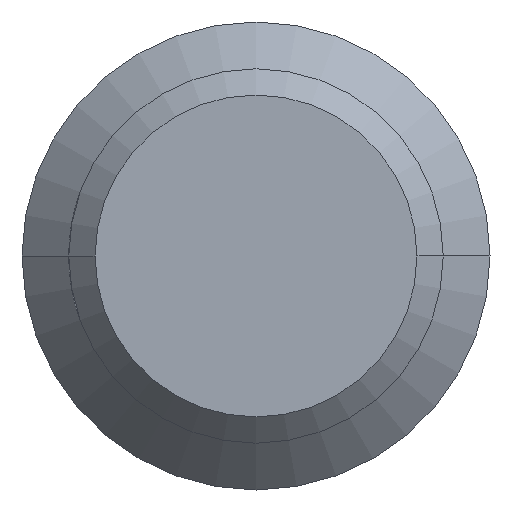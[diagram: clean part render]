
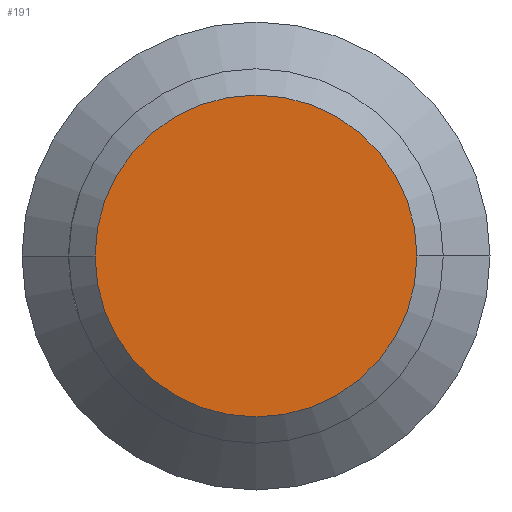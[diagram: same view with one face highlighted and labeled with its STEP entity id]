
A CAD part, left-side view. The second image highlights one B-rep face of the part: STEP entity #191.
In plain terms, the highlighted planar face has unit normal (-1, 0, 0).
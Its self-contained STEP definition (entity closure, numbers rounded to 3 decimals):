
#145 = VERTEX_POINT ( 'NONE', #451 ) ;
#163 = EDGE_CURVE ( 'NONE', #145, #674, #578, .T. ) ;
#171 = EDGE_LOOP ( 'NONE', ( #586, #253 ) ) ;
#191 = ADVANCED_FACE ( 'NONE', ( #391 ), #392, .T. ) ;
#253 = ORIENTED_EDGE ( 'NONE', *, *, #163, .T. ) ;
#319 = CARTESIAN_POINT ( 'NONE',  ( -96., 8.6, 0. ) ) ;
#331 = EDGE_CURVE ( 'NONE', #674, #145, #426, .T. ) ;
#391 = FACE_OUTER_BOUND ( 'NONE', #171, .T. ) ;
#392 = PLANE ( 'NONE',  #393 ) ;
#393 = AXIS2_PLACEMENT_3D ( 'NONE', #394, #395, #396 ) ;
#394 = CARTESIAN_POINT ( 'NONE',  ( -96., 0., 0. ) ) ;
#395 = DIRECTION ( 'NONE',  ( -1., 0., 0. ) ) ;
#396 = DIRECTION ( 'NONE',  ( 0., -1., 0. ) ) ;
#426 = CIRCLE ( 'NONE', #427, 8.6 ) ;
#427 = AXIS2_PLACEMENT_3D ( 'NONE', #428, #429, #430 ) ;
#428 = CARTESIAN_POINT ( 'NONE',  ( -96., 0., 0. ) ) ;
#429 = DIRECTION ( 'NONE',  ( -1., 0., 0. ) ) ;
#430 = DIRECTION ( 'NONE',  ( 0., -1., 0. ) ) ;
#451 = CARTESIAN_POINT ( 'NONE',  ( -96., -8.6, 0. ) ) ;
#578 = CIRCLE ( 'NONE', #579, 8.6 ) ;
#579 = AXIS2_PLACEMENT_3D ( 'NONE', #580, #581, #582 ) ;
#580 = CARTESIAN_POINT ( 'NONE',  ( -96., 0., 0. ) ) ;
#581 = DIRECTION ( 'NONE',  ( -1., 0., 0. ) ) ;
#582 = DIRECTION ( 'NONE',  ( 0., -1., 0. ) ) ;
#586 = ORIENTED_EDGE ( 'NONE', *, *, #331, .T. ) ;
#674 = VERTEX_POINT ( 'NONE', #319 ) ;
